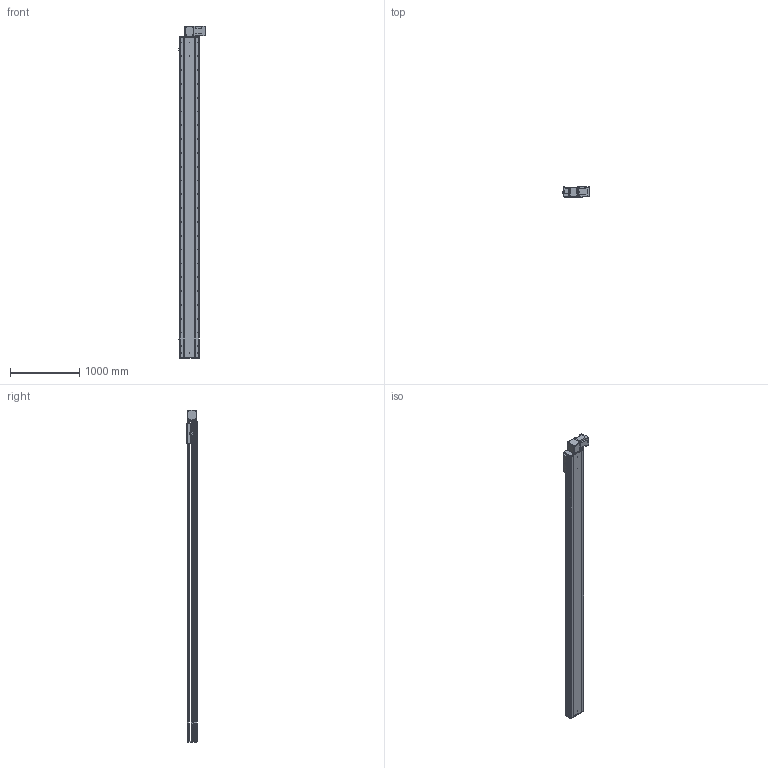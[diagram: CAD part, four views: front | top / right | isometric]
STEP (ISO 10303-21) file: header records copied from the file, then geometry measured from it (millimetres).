
FILE_DESCRIPTION (( 'STEP AP214' ), '1' );
FILE_NAME ('RTB28S-XX-4200-BL-M100-XX-C4.STEP', '2025-12-22T02:44:40', ( '' ), ( '' ), 'SwSTEP 2.0', 'SolidWorks 2018', '' );
FILE_SCHEMA (( 'AUTOMOTIVE_DESIGN' ));
Length unit declared in the file: millimetre
Products named in the file (4): RTB28S-GY-004^RTB28S-XX-XX-BL-M100-XX-C4; RTB28S-GY-011^RTB28S-XX-XX-BL-M100-XX-C4; RTB28S-XX-4200-BL-M100-XX-C4; RTB28S-GY-008^RTB28S-XX-XX-BL-M100-XX-C4
Assembly tree (3 placements, depth 2):
  RTB28S-XX-4200-BL-M100-XX-C4
    RTB28S-GY-011^RTB28S-XX-XX-BL-M100-XX-C4
    RTB28S-GY-004^RTB28S-XX-XX-BL-M100-XX-C4
    RTB28S-GY-008^RTB28S-XX-XX-BL-M100-XX-C4
Bounding box: 380.7 x 145 x 4807 mm (x, y, z)
Volume: 80005973.4 mm3; surface area: 7409402.9 mm2
Topology: 3 solids, 4 shells, 948 faces, 2568 edges, 1648 vertices
Faces by surface type: cylinder 487, plane 377, cone 80, torus 4
Entity records: 37289 total; most frequent: CARTESIAN_POINT 7402, DIRECTION 5478, ORIENTED_EDGE 5072, EDGE_CURVE 2536, AXIS2_PLACEMENT_3D 2044, VERTEX_POINT 1648, LINE 1390, VECTOR 1390
